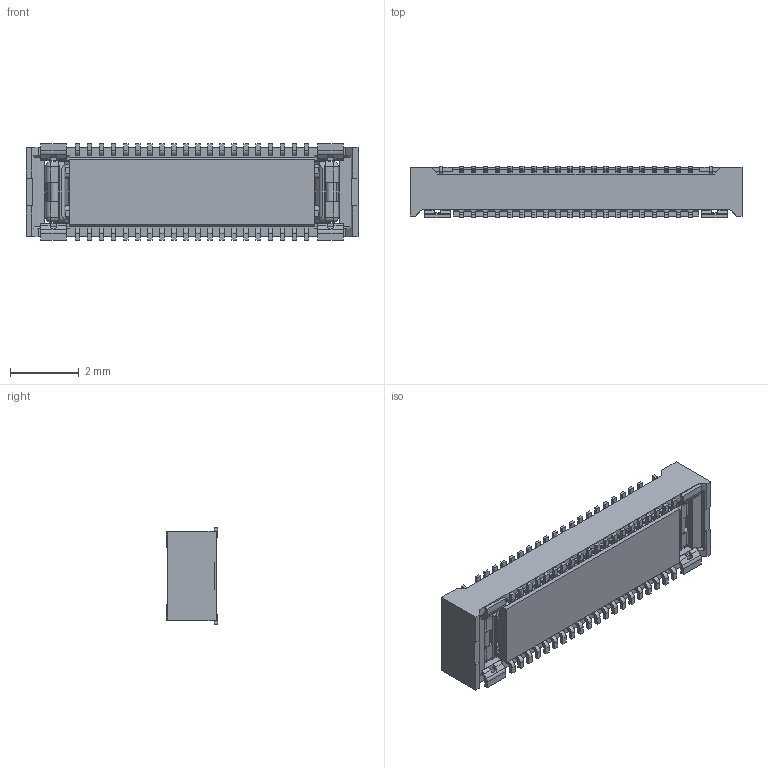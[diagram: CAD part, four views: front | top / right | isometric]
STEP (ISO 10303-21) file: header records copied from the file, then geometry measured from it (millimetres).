
FILE_DESCRIPTION (( 'STEP AP203' ), '1' );
FILE_NAME ('20842-040E-01+20843-040E-01-MATING ASS''Y 3Dmodel STEP.STEP', '2018-04-02T12:02:29', ( '' ), ( '' ), 'SwSTEP 2.0', 'SolidWorks 2017', '' );
FILE_SCHEMA (( 'CONFIG_CONTROL_DESIGN' ));
Length unit declared in the file: millimetre
Products named in the file (3): 20842-040E-01-PLUG ASS''Y 3Dmodel; 20842-040E-01+20843-040E-01-MATING ASS''Y 3Dmodel STEP; 20843-040E-01-RECE ASS''Y 3Dmodel
Assembly tree (2 placements, depth 2):
  20842-040E-01+20843-040E-01-MATING ASS''Y 3Dmodel STEP
    20843-040E-01-RECE ASS''Y 3Dmodel
    20842-040E-01-PLUG ASS''Y 3Dmodel
Bounding box: 9.65 x 1.5 x 2.8 mm (x, y, z)
Volume: 30.5 mm3; surface area: 192.8 mm2
Topology: 2 solids, 2 shells, 1621 faces, 4740 edges, 3148 vertices
Faces by surface type: plane 1085, cylinder 532, sphere 4
Entity records: 53871 total; most frequent: CARTESIAN_POINT 9626, ORIENTED_EDGE 9472, DIRECTION 8996, EDGE_CURVE 4736, LINE 3656, VECTOR 3656, VERTEX_POINT 3148, AXIS2_PLACEMENT_3D 2670
